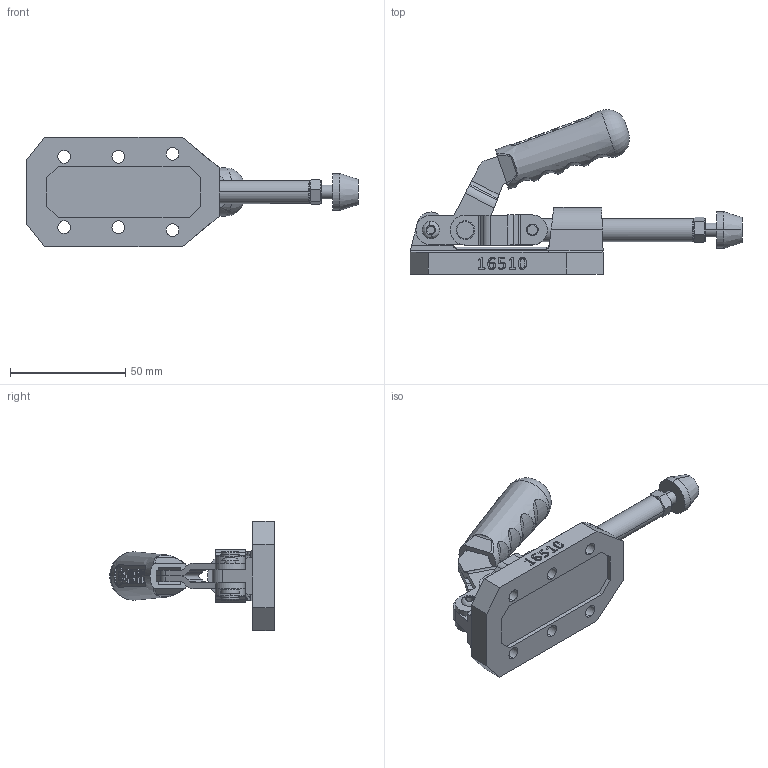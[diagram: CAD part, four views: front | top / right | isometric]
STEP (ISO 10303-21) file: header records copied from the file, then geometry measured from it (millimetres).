
FILE_DESCRIPTION (( 'STEP AP203' ), '1' );
FILE_NAME ('16510.STEP', '2022-11-29T05:25:49', ( '' ), ( '' ), 'SwSTEP 2.0', 'SolidWorks 2023', '' );
FILE_SCHEMA (( 'CONFIG_CONTROL_DESIGN' ));
Length unit declared in the file: millimetre
Products named in the file (12): 16510; 1607_Gövde; Pim_5x16; 1607_Mil; 1607_cap 8 segmanlı; M6 Baskı; 1607_hareket kolu_sag; 1607_mafsal; M6 Somun; C55_T(YENİ_TUTAMAK)_Varsayılan; Aynalama1607_hareket kolu_sag; 1607_cap 5 segmanlı
Assembly tree (12 placements, depth 2):
  16510
    1607_Gövde
    1607_hareket kolu_sag
    1607_Mil
    Aynalama1607_hareket kolu_sag
    1607_mafsal  x2
    1607_cap 8 segmanlı
    1607_cap 5 segmanlı
    Pim_5x16
    M6 Baskı
    M6 Somun
    C55_T(YENİ_TUTAMAK)_Varsayılan
Bounding box: 143.85 x 71.38 x 47.5 mm (x, y, z)
Volume: 71075.5 mm3; surface area: 34593.3 mm2
Topology: 12 solids, 12 shells, 690 faces, 1783 edges, 1158 vertices
Faces by surface type: plane 334, cylinder 173, bspline 143, cone 30, torus 10
Entity records: 33206 total; most frequent: CARTESIAN_POINT 16559, ORIENTED_EDGE 3412, DIRECTION 2770, EDGE_CURVE 1706, VERTEX_POINT 1108, VECTOR 1012, LINE 1012, AXIS2_PLACEMENT_3D 879
